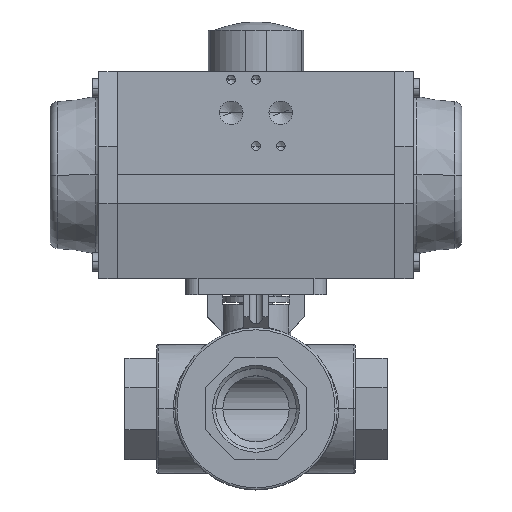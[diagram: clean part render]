
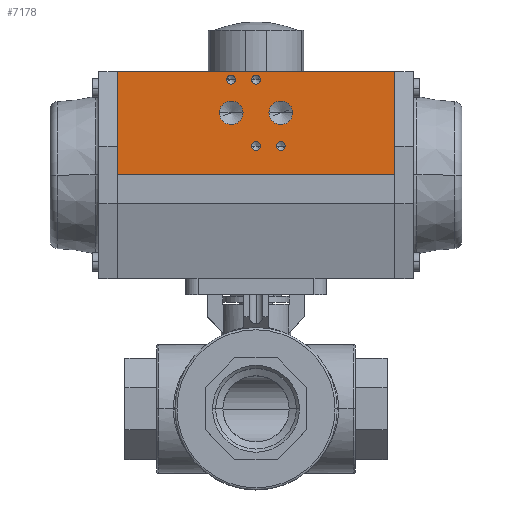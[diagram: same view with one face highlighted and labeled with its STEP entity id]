
A CAD part, top view. The second image highlights one B-rep face of the part: STEP entity #7178.
In plain terms, the highlighted planar face has unit normal (0, 0, 1) as drawn and (1, 0, 0) by its records, which use the part's own axes.
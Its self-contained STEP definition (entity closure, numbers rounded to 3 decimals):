
#24 = DIRECTION ( 'NONE',  ( 1., 0., 0. ) ) ;
#68 = DIRECTION ( 'NONE',  ( 0., 0., -1. ) ) ;
#69 = CARTESIAN_POINT ( 'NONE',  ( 49.5, 46., -2.1 ) ) ;
#146 = VECTOR ( 'NONE', #10238, 1000. ) ;
#173 = DIRECTION ( 'NONE',  ( 0., 0., -1. ) ) ;
#428 = EDGE_CURVE ( 'NONE', #14701, #10391, #2075, .T. ) ;
#668 = ORIENTED_EDGE ( 'NONE', *, *, #5398, .T. ) ;
#869 = ORIENTED_EDGE ( 'NONE', *, *, #12164, .F. ) ;
#890 = EDGE_CURVE ( 'NONE', #3477, #2320, #3587, .T. ) ;
#1066 = VERTEX_POINT ( 'NONE', #11934 ) ;
#1439 = AXIS2_PLACEMENT_3D ( 'NONE', #12981, #4856, #14333 ) ;
#1568 = ORIENTED_EDGE ( 'NONE', *, *, #9742, .T. ) ;
#1755 = DIRECTION ( 'NONE',  ( 1., 0., 0. ) ) ;
#1824 = AXIS2_PLACEMENT_3D ( 'NONE', #14666, #6537, #16033 ) ;
#1958 = CARTESIAN_POINT ( 'NONE',  ( 49.5, 0., 67. ) ) ;
#2075 = CIRCLE ( 'NONE', #12184, 2.1 ) ;
#2292 = DIRECTION ( 'NONE',  ( 1., 0., 0. ) ) ;
#2320 = VERTEX_POINT ( 'NONE', #12438 ) ;
#2341 = CARTESIAN_POINT ( 'NONE',  ( 49.5, 46., 12. ) ) ;
#2525 = CARTESIAN_POINT ( 'NONE',  ( 49.5, 14., -14.1 ) ) ;
#2734 = DIRECTION ( 'NONE',  ( 0., 1., 0. ) ) ;
#2742 = CARTESIAN_POINT ( 'NONE',  ( 49.5, 30., -12. ) ) ;
#2764 = LINE ( 'NONE', #5998, #16342 ) ;
#3129 = ORIENTED_EDGE ( 'NONE', *, *, #5252, .F. ) ;
#3202 = FACE_BOUND ( 'NONE', #11733, .T. ) ;
#3477 = VERTEX_POINT ( 'NONE', #6663 ) ;
#3499 = CARTESIAN_POINT ( 'NONE',  ( 49.5, 46., 14.1 ) ) ;
#3587 = CIRCLE ( 'NONE', #3870, 5.723 ) ;
#3612 = LINE ( 'NONE', #12274, #10430 ) ;
#3708 = DIRECTION ( 'NONE',  ( 0., 0., -1. ) ) ;
#3751 = DIRECTION ( 'NONE',  ( 1., 0., 0. ) ) ;
#3870 = AXIS2_PLACEMENT_3D ( 'NONE', #2742, #12253, #4106 ) ;
#3911 = CARTESIAN_POINT ( 'NONE',  ( 49.5, 46., 0. ) ) ;
#3971 = DIRECTION ( 'NONE',  ( 1., 0., 0. ) ) ;
#4007 = ORIENTED_EDGE ( 'NONE', *, *, #12221, .F. ) ;
#4106 = DIRECTION ( 'NONE',  ( 0., 0., -1. ) ) ;
#4330 = AXIS2_PLACEMENT_3D ( 'NONE', #3911, #13401, #5263 ) ;
#4856 = DIRECTION ( 'NONE',  ( 1., 0., 0. ) ) ;
#4900 = CIRCLE ( 'NONE', #12555, 2.1 ) ;
#5173 = CIRCLE ( 'NONE', #1439, 2.1 ) ;
#5252 = EDGE_CURVE ( 'NONE', #1066, #13283, #7221, .T. ) ;
#5263 = DIRECTION ( 'NONE',  ( 0., 0., -1. ) ) ;
#5278 = EDGE_CURVE ( 'NONE', #10239, #8670, #3612, .T. ) ;
#5398 = EDGE_CURVE ( 'NONE', #7342, #9096, #2764, .T. ) ;
#5421 = CARTESIAN_POINT ( 'NONE',  ( 49.5, 0., -67. ) ) ;
#5476 = DIRECTION ( 'NONE',  ( 0., 0., 1. ) ) ;
#5861 = ORIENTED_EDGE ( 'NONE', *, *, #7876, .F. ) ;
#5985 = AXIS2_PLACEMENT_3D ( 'NONE', #8132, #24, #9498 ) ;
#5998 = CARTESIAN_POINT ( 'NONE',  ( 49.5, 50., -67. ) ) ;
#6001 = EDGE_CURVE ( 'NONE', #10257, #9949, #5173, .T. ) ;
#6099 = EDGE_CURVE ( 'NONE', #10654, #12701, #15347, .T. ) ;
#6115 = AXIS2_PLACEMENT_3D ( 'NONE', #5421, #14919, #6793 ) ;
#6196 = ORIENTED_EDGE ( 'NONE', *, *, #11852, .F. ) ;
#6537 = DIRECTION ( 'NONE',  ( 1., 0., 0. ) ) ;
#6588 = LINE ( 'NONE', #10880, #9343 ) ;
#6663 = CARTESIAN_POINT ( 'NONE',  ( 49.5, 30., -6.277 ) ) ;
#6678 = EDGE_LOOP ( 'NONE', ( #17396, #10497 ) ) ;
#6793 = DIRECTION ( 'NONE',  ( 0., 1., 0. ) ) ;
#6809 = FACE_BOUND ( 'NONE', #17477, .T. ) ;
#6811 = ORIENTED_EDGE ( 'NONE', *, *, #5278, .F. ) ;
#7178 = ADVANCED_FACE ( 'NONE', ( #10437, #14017, #6809, #3202, #17210, #13599, #10005 ), #8101, .T. ) ;
#7204 = CARTESIAN_POINT ( 'NONE',  ( 49.5, 46., 9.9 ) ) ;
#7221 = CIRCLE ( 'NONE', #15866, 5.722 ) ;
#7342 = VERTEX_POINT ( 'NONE', #11132 ) ;
#7876 = EDGE_CURVE ( 'NONE', #8670, #9096, #6588, .T. ) ;
#8004 = ORIENTED_EDGE ( 'NONE', *, *, #8332, .F. ) ;
#8101 = PLANE ( 'NONE',  #6115 ) ;
#8132 = CARTESIAN_POINT ( 'NONE',  ( 49.5, 30., -12. ) ) ;
#8175 = DIRECTION ( 'NONE',  ( 1., 0., 0. ) ) ;
#8228 = CIRCLE ( 'NONE', #5985, 5.723 ) ;
#8290 = DIRECTION ( 'NONE',  ( 1., 0., 0. ) ) ;
#8332 = EDGE_CURVE ( 'NONE', #8333, #15424, #9974, .T. ) ;
#8333 = VERTEX_POINT ( 'NONE', #10749 ) ;
#8490 = ORIENTED_EDGE ( 'NONE', *, *, #16373, .F. ) ;
#8670 = VERTEX_POINT ( 'NONE', #1958 ) ;
#8852 = CARTESIAN_POINT ( 'NONE',  ( 49.5, 0., -67. ) ) ;
#8870 = EDGE_LOOP ( 'NONE', ( #3129, #4007 ) ) ;
#9002 = EDGE_CURVE ( 'NONE', #2320, #3477, #8228, .T. ) ;
#9096 = VERTEX_POINT ( 'NONE', #9619 ) ;
#9165 = CIRCLE ( 'NONE', #13474, 2.1 ) ;
#9343 = VECTOR ( 'NONE', #2734, 1000. ) ;
#9498 = DIRECTION ( 'NONE',  ( 0., 0., -1. ) ) ;
#9619 = CARTESIAN_POINT ( 'NONE',  ( 49.5, 50., 67. ) ) ;
#9742 = EDGE_CURVE ( 'NONE', #10239, #7342, #10540, .T. ) ;
#9905 = CARTESIAN_POINT ( 'NONE',  ( 49.5, 14., -12. ) ) ;
#9949 = VERTEX_POINT ( 'NONE', #13414 ) ;
#9974 = CIRCLE ( 'NONE', #14431, 2.1 ) ;
#10005 = FACE_OUTER_BOUND ( 'NONE', #16014, .T. ) ;
#10038 = ORIENTED_EDGE ( 'NONE', *, *, #13757, .F. ) ;
#10109 = DIRECTION ( 'NONE',  ( 0., 0., 1. ) ) ;
#10238 = DIRECTION ( 'NONE',  ( 0., 1., 0. ) ) ;
#10239 = VERTEX_POINT ( 'NONE', #15768 ) ;
#10257 = VERTEX_POINT ( 'NONE', #2525 ) ;
#10391 = VERTEX_POINT ( 'NONE', #69 ) ;
#10430 = VECTOR ( 'NONE', #5476, 1000. ) ;
#10437 = FACE_BOUND ( 'NONE', #17209, .T. ) ;
#10450 = CARTESIAN_POINT ( 'NONE',  ( 49.5, 14., 0. ) ) ;
#10497 = ORIENTED_EDGE ( 'NONE', *, *, #890, .F. ) ;
#10540 = LINE ( 'NONE', #8852, #146 ) ;
#10654 = VERTEX_POINT ( 'NONE', #7204 ) ;
#10749 = CARTESIAN_POINT ( 'NONE',  ( 49.5, 14., 2.1 ) ) ;
#10880 = CARTESIAN_POINT ( 'NONE',  ( 49.5, 0., 67. ) ) ;
#11132 = CARTESIAN_POINT ( 'NONE',  ( 49.5, 50., -67. ) ) ;
#11258 = DIRECTION ( 'NONE',  ( 0., 0., -1. ) ) ;
#11733 = EDGE_LOOP ( 'NONE', ( #6196, #11805 ) ) ;
#11805 = ORIENTED_EDGE ( 'NONE', *, *, #428, .F. ) ;
#11819 = DIRECTION ( 'NONE',  ( 0., 0., -1. ) ) ;
#11852 = EDGE_CURVE ( 'NONE', #10391, #14701, #17493, .T. ) ;
#11861 = DIRECTION ( 'NONE',  ( 1., 0., 0. ) ) ;
#11895 = CARTESIAN_POINT ( 'NONE',  ( 49.5, 46., 12. ) ) ;
#11934 = CARTESIAN_POINT ( 'NONE',  ( 49.5, 30., 6.277 ) ) ;
#12118 = CARTESIAN_POINT ( 'NONE',  ( 49.5, 14., 0. ) ) ;
#12164 = EDGE_CURVE ( 'NONE', #12701, #10654, #16619, .T. ) ;
#12184 = AXIS2_PLACEMENT_3D ( 'NONE', #16402, #8290, #173 ) ;
#12199 = AXIS2_PLACEMENT_3D ( 'NONE', #11895, #3751, #13244 ) ;
#12221 = EDGE_CURVE ( 'NONE', #13283, #1066, #17476, .T. ) ;
#12247 = CARTESIAN_POINT ( 'NONE',  ( 49.5, 14., -2.1 ) ) ;
#12253 = DIRECTION ( 'NONE',  ( 1., 0., 0. ) ) ;
#12274 = CARTESIAN_POINT ( 'NONE',  ( 49.5, 0., -67. ) ) ;
#12383 = AXIS2_PLACEMENT_3D ( 'NONE', #2341, #11861, #3708 ) ;
#12438 = CARTESIAN_POINT ( 'NONE',  ( 49.5, 30., -17.723 ) ) ;
#12555 = AXIS2_PLACEMENT_3D ( 'NONE', #10450, #2292, #11819 ) ;
#12701 = VERTEX_POINT ( 'NONE', #3499 ) ;
#12757 = CARTESIAN_POINT ( 'NONE',  ( 49.5, 30., 17.722 ) ) ;
#12981 = CARTESIAN_POINT ( 'NONE',  ( 49.5, 14., -12. ) ) ;
#13244 = DIRECTION ( 'NONE',  ( 0., 0., -1. ) ) ;
#13283 = VERTEX_POINT ( 'NONE', #12757 ) ;
#13401 = DIRECTION ( 'NONE',  ( 1., 0., 0. ) ) ;
#13414 = CARTESIAN_POINT ( 'NONE',  ( 49.5, 14., -9.9 ) ) ;
#13470 = DIRECTION ( 'NONE',  ( 0., 0., -1. ) ) ;
#13474 = AXIS2_PLACEMENT_3D ( 'NONE', #9905, #1755, #11258 ) ;
#13599 = FACE_BOUND ( 'NONE', #8870, .T. ) ;
#13684 = ORIENTED_EDGE ( 'NONE', *, *, #6001, .F. ) ;
#13757 = EDGE_CURVE ( 'NONE', #15424, #8333, #4900, .T. ) ;
#13765 = EDGE_LOOP ( 'NONE', ( #13684, #8490 ) ) ;
#13943 = ORIENTED_EDGE ( 'NONE', *, *, #6099, .F. ) ;
#14017 = FACE_BOUND ( 'NONE', #13765, .T. ) ;
#14333 = DIRECTION ( 'NONE',  ( 0., 0., -1. ) ) ;
#14431 = AXIS2_PLACEMENT_3D ( 'NONE', #12118, #3971, #13470 ) ;
#14666 = CARTESIAN_POINT ( 'NONE',  ( 49.5, 30., 12. ) ) ;
#14701 = VERTEX_POINT ( 'NONE', #15639 ) ;
#14919 = DIRECTION ( 'NONE',  ( 1., 0., 0. ) ) ;
#15347 = CIRCLE ( 'NONE', #12383, 2.1 ) ;
#15424 = VERTEX_POINT ( 'NONE', #12247 ) ;
#15639 = CARTESIAN_POINT ( 'NONE',  ( 49.5, 46., 2.1 ) ) ;
#15768 = CARTESIAN_POINT ( 'NONE',  ( 49.5, 0., -67. ) ) ;
#15866 = AXIS2_PLACEMENT_3D ( 'NONE', #16288, #8175, #68 ) ;
#16014 = EDGE_LOOP ( 'NONE', ( #668, #5861, #6811, #1568 ) ) ;
#16033 = DIRECTION ( 'NONE',  ( 0., 0., -1. ) ) ;
#16288 = CARTESIAN_POINT ( 'NONE',  ( 49.5, 30., 12. ) ) ;
#16342 = VECTOR ( 'NONE', #10109, 1000. ) ;
#16373 = EDGE_CURVE ( 'NONE', #9949, #10257, #9165, .T. ) ;
#16402 = CARTESIAN_POINT ( 'NONE',  ( 49.5, 46., 0. ) ) ;
#16619 = CIRCLE ( 'NONE', #12199, 2.1 ) ;
#17209 = EDGE_LOOP ( 'NONE', ( #13943, #869 ) ) ;
#17210 = FACE_BOUND ( 'NONE', #6678, .T. ) ;
#17396 = ORIENTED_EDGE ( 'NONE', *, *, #9002, .F. ) ;
#17476 = CIRCLE ( 'NONE', #1824, 5.722 ) ;
#17477 = EDGE_LOOP ( 'NONE', ( #10038, #8004 ) ) ;
#17493 = CIRCLE ( 'NONE', #4330, 2.1 ) ;
